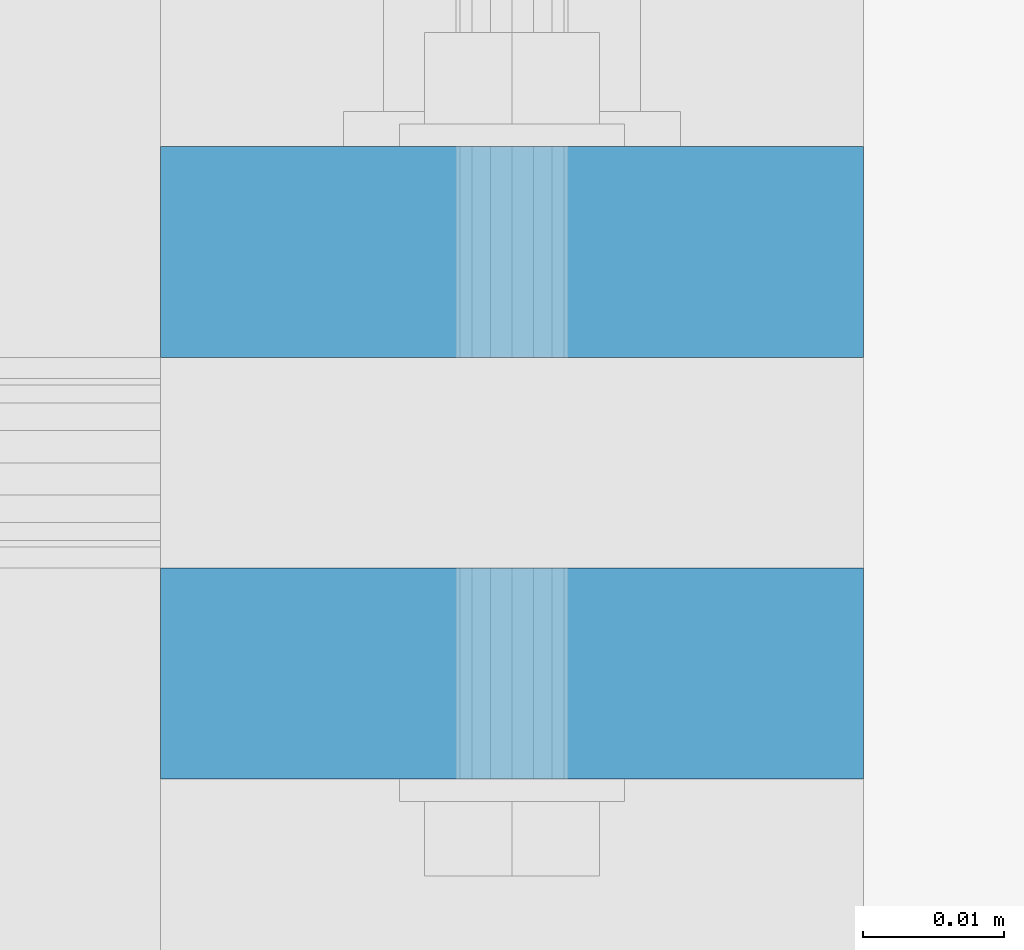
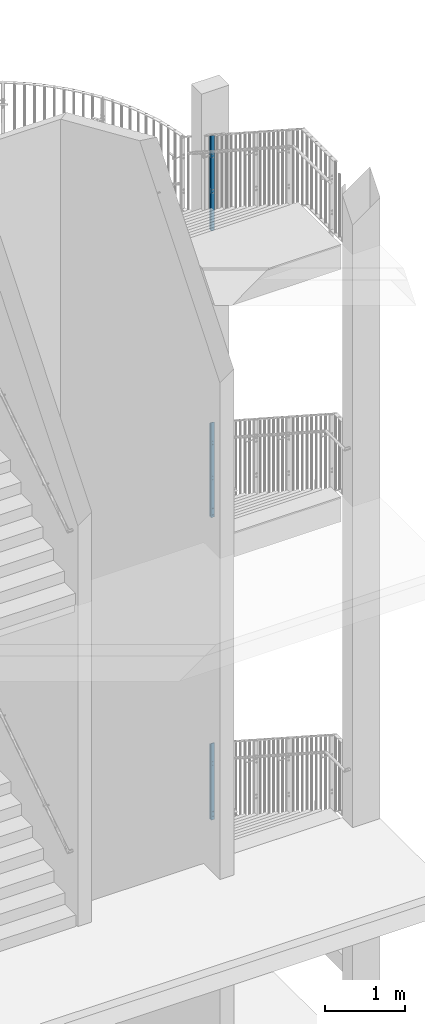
# One storey, part 80 of 296: 6 columns, 32 openings.
"""IFC2X3 building model written with IfcOpenShell, lengths in millimetres."""

import ifcopenshell
import ifcopenshell.guid

model = None  # the IFC model being written
_history = None  # IfcOwnerHistory: only IFC2X3 demands one
_inside = {}  # id of a spatial element -> (the spatial element, [elements in it])
_under = {}  # id of a project, library or spatial element -> (it, [spatial elements below it])
_declared = {}  # id of a project -> (the project, [libraries it declares])
_typed = {}  # id of a type object -> (the type object, [elements of that type])
_made_of = {}  # id of a material, layer set ... -> (it, [elements and type objects made of it])


def new_model(schema):
    """Start an empty IFC model of exactly this schema.

    Asked for "IFC4X3", IfcOpenShell would pick the latest addendum, in which some entities
    have other attributes; the version numbers below select the first issue.
    IFC2X3 requires an IfcOwnerHistory on every rooted entity: one is made here for all.
    """
    global model, _history
    if schema == "IFC4X3":
        model = ifcopenshell.file(schema_version=(4, 3, 0, 0))
    else:
        model = ifcopenshell.file(schema=schema)
    _inside.clear()
    _under.clear()
    _declared.clear()
    _typed.clear()
    _made_of.clear()
    _history = None
    if model.schema == "IFC2X3":
        org = make("IfcOrganization", Name="unknown")
        user = make(
            "IfcPersonAndOrganization",
            ThePerson=make("IfcPerson", FamilyName="unknown"),
            TheOrganization=org,
        )
        app = make(
            "IfcApplication",
            ApplicationDeveloper=org,
            Version="unknown",
            ApplicationFullName="unknown",
            ApplicationIdentifier="unknown",
        )
        _history = make(
            "IfcOwnerHistory",
            OwningUser=user,
            OwningApplication=app,
            ChangeAction="ADDED",
            CreationDate=0,
        )
    return model


def make(cls, **values):
    """One entity of the class cls with the attributes given. An attribute that is None is left unset."""
    return model.create_entity(
        cls, **{name: value for name, value in values.items() if value is not None}
    )


def entity(cls, *values):
    """Any entity or typed value of the class cls, its attributes in the order of the schema. None: left unset."""
    e = model.create_entity(cls)
    for i, value in enumerate(values):
        if value is not None:
            e[i] = value
    return e


def rooted(cls, **values):
    """An entity with a GlobalId (a new one), such as an element, a storey or a relation."""
    return make(cls, GlobalId=ifcopenshell.guid.new(), OwnerHistory=_history, **values)


def si_unit(unit_type, name, prefix=None):
    """IfcSIUnit, for example si_unit("LENGTHUNIT", "METRE", prefix="MILLI")."""
    return make("IfcSIUnit", UnitType=unit_type, Prefix=prefix, Name=name)


def converted_unit(unit_type, name, factor, base, dimensions=None, offset=None):
    """IfcConversionBasedUnit, such as the inch: factor (a typed value) times the base unit."""
    return make(
        "IfcConversionBasedUnit"
        if offset is None
        else "IfcConversionBasedUnitWithOffset",
        ConversionOffset=offset,
        Dimensions=None
        if dimensions is None
        else entity("IfcDimensionalExponents", *dimensions),
        UnitType=unit_type,
        Name=name,
        ConversionFactor=make(
            "IfcMeasureWithUnit", ValueComponent=factor, UnitComponent=base
        ),
    )


def assignment(units):
    """IfcUnitAssignment: the units of a project."""
    return None if units is None else make("IfcUnitAssignment", Units=units)


def point(xyz):
    """IfcCartesianPoint."""
    return None if xyz is None else make("IfcCartesianPoint", Coordinates=xyz)


def direction(xyz):
    """IfcDirection."""
    return None if xyz is None else make("IfcDirection", DirectionRatios=xyz)


def frame(location, z_axis=None, x_axis=None):
    """IfcAxis2Placement3D, a coordinate frame: its origin and axes. An axis left out is left unset."""
    return make(
        "IfcAxis2Placement3D",
        Location=point(location),
        Axis=direction(z_axis),
        RefDirection=direction(x_axis),
    )


def frame_2d(location, x_axis=None):
    """IfcAxis2Placement2D, a coordinate frame in the plane: its origin and x axis."""
    return make(
        "IfcAxis2Placement2D", Location=point(location), RefDirection=direction(x_axis)
    )


def origin():
    """The frame at (0, 0, 0) with its axes left unset."""
    return frame((0.0, 0.0, 0.0))


def origin_with_axes():
    """The frame at (0, 0, 0) with the z axis (0, 0, 1) and the x axis (1, 0, 0) written out."""
    return frame((0.0, 0.0, 0.0), z_axis=(0.0, 0.0, 1.0), x_axis=(1.0, 0.0, 0.0))


def origin_2d():
    """The frame at (0, 0) in the plane with its x axis left unset."""
    return frame_2d((0.0, 0.0))


def place(relative_to, where):
    """IfcLocalPlacement: puts the frame where relative to a parent placement (None: the world)."""
    return make(
        "IfcLocalPlacement", PlacementRelTo=relative_to, RelativePlacement=where
    )


def context(
    kind, dimensions, precision=None, world=None, true_north=None, identifier=None
):
    """IfcGeometricRepresentationContext, for example the 3D "Model" context."""
    return make(
        "IfcGeometricRepresentationContext",
        ContextIdentifier=identifier,
        ContextType=kind,
        CoordinateSpaceDimension=dimensions,
        Precision=precision,
        WorldCoordinateSystem=world,
        TrueNorth=true_north,
    )


def project(units=None, contexts=None):
    """IfcProject with its units and contexts."""
    return rooted(
        "IfcProject",
        Name="project",
        RepresentationContexts=contexts,
        UnitsInContext=assignment(units),
    )


def spatial(cls, under=None, at=None, **own):
    """A site, building, storey or space (cls), placed at a placement, below another one or the project."""
    s = rooted(cls, ObjectPlacement=at, **own)
    if under is not None:
        _under.setdefault(under.id(), (under, []))[1].append(s)
    return s


def profile(cls, at=None, kind="AREA", **sizes):
    """A parametric profile (cls). Its sizes go by their IFC names, for example OverallWidth=200.0."""
    return make(cls, ProfileType=kind, Position=at, **sizes)


def rectangle(**sizes):
    """IfcRectangleProfileDef."""
    return profile("IfcRectangleProfileDef", **sizes)


def circle(**sizes):
    """IfcCircleProfileDef."""
    return profile("IfcCircleProfileDef", **sizes)


def extrude(swept, where, along, depth):
    """IfcExtrudedAreaSolid: the profile swept, set in the frame where, extruded along a direction by depth."""
    return make(
        "IfcExtrudedAreaSolid",
        SweptArea=swept,
        Position=where,
        ExtrudedDirection=direction(along),
        Depth=depth,
    )


def clip(a, b, op="DIFFERENCE"):
    """IfcBooleanClippingResult: the solid a cut by the half space b."""
    return make(
        "IfcBooleanClippingResult", Operator=op, FirstOperand=a, SecondOperand=b
    )


def halfspace(plane, agree):
    """IfcHalfSpaceSolid: all space on one side of the plane z = 0 of the frame plane."""
    return make(
        "IfcHalfSpaceSolid",
        BaseSurface=make("IfcPlane", Position=plane),
        AgreementFlag=agree,
    )


def shape(context_of_items, identifier, shape_type, items):
    """IfcShapeRepresentation: the items that make up one representation, for example the "Body"."""
    return make(
        "IfcShapeRepresentation",
        ContextOfItems=context_of_items,
        RepresentationIdentifier=identifier,
        RepresentationType=shape_type,
        Items=items,
    )


def material(Name=None, Category=None):
    """IfcMaterial."""
    return make("IfcMaterial", Name=Name, Category=Category)


def made_of(thing, what):
    """Note that an element or type object is made of a material, layer set ...; save() writes the relation."""
    if what is not None:
        _made_of.setdefault(what.id(), (what, []))[1].append(thing)
    return thing


def element(
    cls,
    number,
    at=None,
    inside=None,
    cuts=None,
    type_object=None,
    material=None,
    context=None,
    identifier="Body",
    shape_type=None,
    held_by="IfcProductDefinitionShape",
    body=None,
    shapes=None,
    **own,
):
    """One element of the class cls, such as IfcWall. Its Tag is "e" and its number.

    at: its placement. inside: the storey or other place that contains it. cuts: it is an
    opening in that element (IfcRelVoidsElement). A single representation is given by context,
    identifier, shape_type and body (its items); several are given by shapes. held_by: the class
    of the entity that holds the representations. save() writes the other relations.
    """
    e = rooted(cls, Tag="e%d" % number, ObjectPlacement=at, **own)
    if body is not None:
        shapes = [shape(context, identifier, shape_type, body)]
    if shapes is not None:
        e.Representation = make(held_by, Representations=shapes)
    if inside is not None:
        _inside.setdefault(inside.id(), (inside, []))[1].append(e)
    if cuts is not None:
        rooted(
            "IfcRelVoidsElement", RelatingBuildingElement=cuts, RelatedOpeningElement=e
        )
    if type_object is not None:
        _typed.setdefault(type_object.id(), (type_object, []))[1].append(e)
    return made_of(e, material)


def aggregate(whole, parts):
    """IfcRelAggregates: a whole, such as a stair, and the parts it consists of."""
    return rooted("IfcRelAggregates", RelatingObject=whole, RelatedObjects=parts)


def save(model, path):
    """Write the relations noted so far, then the file.

    IfcRelAggregates (storeys below a building ...), IfcRelContainedInSpatialStructure (elements
    in a storey), IfcRelDefinesByType, IfcRelAssociatesMaterial and IfcRelDeclares: one each for
    every whole, place, type object, material and project.
    """
    for whole, parts in _under.values():
        aggregate(whole, parts)
    for where, things in _inside.values():
        rooted(
            "IfcRelContainedInSpatialStructure",
            RelatedElements=things,
            RelatingStructure=where,
        )
    for kind, things in _typed.values():
        rooted("IfcRelDefinesByType", RelatedObjects=things, RelatingType=kind)
    for what, things in _made_of.values():
        rooted("IfcRelAssociatesMaterial", RelatedObjects=things, RelatingMaterial=what)
    for by, libraries in _declared.values():
        rooted("IfcRelDeclares", RelatingContext=by, RelatedDefinitions=libraries)
    model.write(path)


model = new_model("IFC2X3")

# Units and contexts
model_context = context("Model", 3, precision=1e-09, world=origin_with_axes())
ifc_project = project(units=[si_unit("LENGTHUNIT", "METRE", prefix="MILLI"), si_unit("AREAUNIT", "SQUARE_METRE"), si_unit("VOLUMEUNIT", "CUBIC_METRE"), converted_unit("PLANEANGLEUNIT", "DEGREE", entity("IfcPlaneAngleMeasure", 0.01745329), si_unit("PLANEANGLEUNIT", "RADIAN"), dimensions=[0, 0, 0, 0, 0, 0, 0])], contexts=[model_context])

# Site, building, storey
site_placement = place(None, origin_with_axes())
site = spatial("IfcSite", under=ifc_project, at=site_placement, Name="TZD-S?d | Treppenhausgel?nder", CompositionType="ELEMENT")
building_placement = place(site_placement, origin_with_axes())
building = spatial("IfcBuilding", under=site, at=building_placement, Name="Struktur 1", CompositionType="ELEMENT")
storey_placement = place(building_placement, origin_with_axes())
storey = spatial("IfcBuildingStorey", under=building, at=storey_placement, Name="Default Storey", CompositionType="ELEMENT", Elevation=0.0)

# Column, openings
ifc_material = material(Name="S235JR")
column_1_placement = place(None, frame((5894.999, -425.0, 11829.999), z_axis=(0.0, 0.0, 1.0), x_axis=(0.0, -1.0, 0.0)))
column_1 = element("IfcColumn", 1, at=column_1_placement, inside=storey, material=ifc_material, Name="-", ObjectType="-", context=model_context, shape_type="Clipping", body=[
    clip(extrude(rectangle(XDim=15.0, YDim=50.0, at=origin_2d()), origin(), (0.0, 0.0, 1.0), 1459.773724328), halfspace(frame((-6348.187002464, -5894.999, -2681.407055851), z_axis=(0.543478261, 0.0, -0.839423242), x_axis=(0.0, 1.0, 0.0)), True)),
])
opening_1_placement = place(column_1_placement, frame((-8.0, 7.001, 135.0), z_axis=(-1.0, 0.0, 0.0), x_axis=(0.0, -1.0, 0.0)))
element("IfcOpeningElement", 2, at=opening_1_placement, cuts=column_1, ObjectType="Opening", context=model_context, shape_type="SweptSolid", body=[
    extrude(circle(Radius=7.001, at=frame_2d((7.001, 0.0), x_axis=(1.0, 0.0))), origin(), (0.0, 0.0, -1.0), 16.0),
])
opening_2_placement = place(column_1_placement, frame((-8.0, 7.001, 35.0), z_axis=(-1.0, 0.0, 0.0), x_axis=(0.0, -1.0, 0.0)))
element("IfcOpeningElement", 3, at=opening_2_placement, cuts=column_1, ObjectType="Opening", context=model_context, shape_type="SweptSolid", body=[
    extrude(circle(Radius=7.001, at=frame_2d((7.001, 0.0), x_axis=(1.0, 0.0))), origin(), (0.0, 0.0, -1.0), 16.0),
])
opening_3_placement = place(column_1_placement, frame((-8.0, 5.001, 624.999999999), z_axis=(-1.0, 0.0, 0.0), x_axis=(0.0, -1.0, 0.0)))
element("IfcOpeningElement", 4, at=opening_3_placement, cuts=column_1, ObjectType="Opening", context=model_context, shape_type="SweptSolid", body=[
    extrude(circle(Radius=5.001, at=frame_2d((5.001, 0.0), x_axis=(1.0, 0.0))), origin(), (0.0, 0.0, -1.0), 16.0),
])
opening_4_placement = place(column_1_placement, frame((-8.0, 5.001, 574.999999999), z_axis=(-1.0, 0.0, 0.0), x_axis=(0.0, -1.0, 0.0)))
element("IfcOpeningElement", 5, at=opening_4_placement, cuts=column_1, ObjectType="Opening", context=model_context, shape_type="SweptSolid", body=[
    extrude(circle(Radius=5.001, at=frame_2d((5.001, 0.0), x_axis=(1.0, 0.0))), origin(), (0.0, 0.0, -1.0), 16.0),
])
opening_5_placement = place(column_1_placement, frame((-8.0, 5.001, 1165.891059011), z_axis=(-1.0, 0.0, 0.0), x_axis=(0.0, -1.0, 0.0)))
element("IfcOpeningElement", 6, at=opening_5_placement, cuts=column_1, ObjectType="Opening", context=model_context, shape_type="SweptSolid", body=[
    extrude(circle(Radius=5.001, at=frame_2d((5.001, 0.0), x_axis=(1.0, 0.0))), origin(), (0.0, 0.0, -1.0), 16.0),
])
opening_6_placement = place(column_1_placement, frame((-8.0, 5.001, 1115.891059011), z_axis=(-1.0, 0.0, 0.0), x_axis=(0.0, -1.0, 0.0)))
element("IfcOpeningElement", 7, at=opening_6_placement, cuts=column_1, ObjectType="Opening", context=model_context, shape_type="SweptSolid", body=[
    extrude(circle(Radius=5.001, at=frame_2d((5.001, 0.0), x_axis=(1.0, 0.0))), origin(), (0.0, 0.0, -1.0), 16.0),
])

column_2_placement = place(None, frame((5894.999, -455.0, 11829.999), z_axis=(0.0, 0.0, -1.0), x_axis=(0.0, 1.0, 0.0)))
column_2 = element("IfcColumn", 8, at=column_2_placement, inside=storey, material=ifc_material, Name="-", ObjectType="-", context=model_context, shape_type="Clipping", body=[
    clip(extrude(rectangle(XDim=15.0, YDim=50.0, at=origin_2d()), origin(), (0.0, 0.0, -1.0), 1479.19699855), halfspace(frame((6378.187002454, -5894.999, 2681.407055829), z_axis=(-0.543478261, 0.0, 0.839423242), x_axis=(0.0, 1.0, 0.0)), True)),
])
opening_7_placement = place(column_2_placement, frame((8.0, 5.001, -624.999999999), z_axis=(1.0, 0.0, 0.0), x_axis=(0.0, 1.0, 0.0)))
element("IfcOpeningElement", 9, at=opening_7_placement, cuts=column_2, ObjectType="Opening", context=model_context, shape_type="SweptSolid", body=[
    extrude(circle(Radius=5.001, at=frame_2d((-5.001, 0.0), x_axis=(1.0, 0.0))), origin(), (0.0, 0.0, -1.0), 16.0),
])
opening_8_placement = place(column_2_placement, frame((8.0, 5.001, -574.999999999), z_axis=(1.0, 0.0, 0.0), x_axis=(0.0, 1.0, 0.0)))
element("IfcOpeningElement", 10, at=opening_8_placement, cuts=column_2, ObjectType="Opening", context=model_context, shape_type="SweptSolid", body=[
    extrude(circle(Radius=5.001, at=frame_2d((-5.001, 0.0), x_axis=(1.0, 0.0))), origin(), (0.0, 0.0, -1.0), 16.0),
])
opening_9_placement = place(column_2_placement, frame((8.0, 7.001, -135.0), z_axis=(1.0, 0.0, 0.0), x_axis=(0.0, 1.0, 0.0)))
element("IfcOpeningElement", 11, at=opening_9_placement, cuts=column_2, ObjectType="Opening", context=model_context, shape_type="SweptSolid", body=[
    extrude(circle(Radius=7.001, at=frame_2d((-7.001, 0.0), x_axis=(1.0, 0.0))), origin(), (0.0, 0.0, -1.0), 16.0),
])
opening_10_placement = place(column_2_placement, frame((8.0, 7.001, -35.0), z_axis=(1.0, 0.0, 0.0), x_axis=(0.0, 1.0, 0.0)))
element("IfcOpeningElement", 12, at=opening_10_placement, cuts=column_2, ObjectType="Opening", context=model_context, shape_type="SweptSolid", body=[
    extrude(circle(Radius=7.001, at=frame_2d((-7.001, 0.0), x_axis=(1.0, 0.0))), origin(), (0.0, 0.0, -1.0), 16.0),
])
opening_11_placement = place(column_2_placement, frame((8.0, 5.001, -1165.891059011), z_axis=(1.0, 0.0, 0.0), x_axis=(0.0, 1.0, 0.0)))
element("IfcOpeningElement", 13, at=opening_11_placement, cuts=column_2, ObjectType="Opening", context=model_context, shape_type="SweptSolid", body=[
    extrude(circle(Radius=5.001, at=frame_2d((-5.001, 0.0), x_axis=(1.0, 0.0))), origin(), (0.0, 0.0, -1.0), 16.0),
])
opening_12_placement = place(column_2_placement, frame((8.0, 5.001, -1115.891059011), z_axis=(1.0, 0.0, 0.0), x_axis=(0.0, 1.0, 0.0)))
element("IfcOpeningElement", 14, at=opening_12_placement, cuts=column_2, ObjectType="Opening", context=model_context, shape_type="SweptSolid", body=[
    extrude(circle(Radius=5.001, at=frame_2d((-5.001, 0.0), x_axis=(1.0, 0.0))), origin(), (0.0, 0.0, -1.0), 16.0),
])

column_3_placement = place(None, frame((5894.999, -425.0, 7454.999), z_axis=(0.0, 0.0, 1.0), x_axis=(0.0, -1.0, 0.0)))
column_3 = element("IfcColumn", 15, at=column_3_placement, inside=storey, material=ifc_material, Name="-", ObjectType="-", context=model_context, shape_type="Clipping", body=[
    clip(extrude(rectangle(XDim=15.0, YDim=50.0, at=origin_2d()), origin(), (0.0, 0.0, 1.0), 1456.429305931), halfspace(frame((-4351.25068323, -5894.999, -1392.80868189), z_axis=(0.543608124, 0.0, -0.839339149), x_axis=(0.0, 1.0, 0.0)), True)),
])
opening_13_placement = place(column_3_placement, frame((-8.0, 5.001, 1162.523152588), z_axis=(-1.0, 0.0, 0.0), x_axis=(0.0, -1.0, 0.0)))
element("IfcOpeningElement", 16, at=opening_13_placement, cuts=column_3, ObjectType="Opening", context=model_context, shape_type="SweptSolid", body=[
    extrude(circle(Radius=5.001, at=frame_2d((5.001, 0.0), x_axis=(1.0, 0.0))), origin(), (0.0, 0.0, -1.0), 16.0),
])
opening_14_placement = place(column_3_placement, frame((-8.0, 5.001, 1112.523152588), z_axis=(-1.0, 0.0, 0.0), x_axis=(0.0, -1.0, 0.0)))
element("IfcOpeningElement", 17, at=opening_14_placement, cuts=column_3, ObjectType="Opening", context=model_context, shape_type="SweptSolid", body=[
    extrude(circle(Radius=5.001, at=frame_2d((5.001, 0.0), x_axis=(1.0, 0.0))), origin(), (0.0, 0.0, -1.0), 16.0),
])
opening_15_placement = place(column_3_placement, frame((-8.0, 7.001, 135.0), z_axis=(-1.0, 0.0, 0.0), x_axis=(0.0, -1.0, 0.0)))
element("IfcOpeningElement", 18, at=opening_15_placement, cuts=column_3, ObjectType="Opening", context=model_context, shape_type="SweptSolid", body=[
    extrude(circle(Radius=7.001, at=frame_2d((7.001, 0.0), x_axis=(1.0, 0.0))), origin(), (0.0, 0.0, -1.0), 16.0),
])
opening_16_placement = place(column_3_placement, frame((-8.0, 7.001, 35.0), z_axis=(-1.0, 0.0, 0.0), x_axis=(0.0, -1.0, 0.0)))
element("IfcOpeningElement", 19, at=opening_16_placement, cuts=column_3, ObjectType="Opening", context=model_context, shape_type="SweptSolid", body=[
    extrude(circle(Radius=7.001, at=frame_2d((7.001, 0.0), x_axis=(1.0, 0.0))), origin(), (0.0, 0.0, -1.0), 16.0),
])
opening_17_placement = place(column_3_placement, frame((-8.0, 5.001, 624.999999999), z_axis=(-1.0, 0.0, 0.0), x_axis=(0.0, -1.0, 0.0)))
element("IfcOpeningElement", 20, at=opening_17_placement, cuts=column_3, ObjectType="Opening", context=model_context, shape_type="SweptSolid", body=[
    extrude(circle(Radius=5.001, at=frame_2d((5.001, 0.0), x_axis=(1.0, 0.0))), origin(), (0.0, 0.0, -1.0), 16.0),
])
opening_18_placement = place(column_3_placement, frame((-8.0, 5.001, 574.999999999), z_axis=(-1.0, 0.0, 0.0), x_axis=(0.0, -1.0, 0.0)))
element("IfcOpeningElement", 21, at=opening_18_placement, cuts=column_3, ObjectType="Opening", context=model_context, shape_type="SweptSolid", body=[
    extrude(circle(Radius=5.001, at=frame_2d((5.001, 0.0), x_axis=(1.0, 0.0))), origin(), (0.0, 0.0, -1.0), 16.0),
])

column_4_placement = place(None, frame((5894.999, -455.0, 7454.999), z_axis=(0.0, 0.0, -1.0), x_axis=(0.0, 1.0, 0.0)))
column_4 = element("IfcColumn", 22, at=column_4_placement, inside=storey, material=ifc_material, Name="-", ObjectType="-", context=model_context, shape_type="Clipping", body=[
    clip(extrude(rectangle(XDim=15.0, YDim=50.0, at=origin_2d()), origin(), (0.0, 0.0, -1.0), 1475.859167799), halfspace(frame((4381.250683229, -5894.999, 1392.80868189), z_axis=(-0.543608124, 0.0, 0.839339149), x_axis=(0.0, 1.0, 0.0)), True)),
])
opening_19_placement = place(column_4_placement, frame((8.0, 7.001, -135.0), z_axis=(1.0, 0.0, 0.0), x_axis=(0.0, 1.0, 0.0)))
element("IfcOpeningElement", 23, at=opening_19_placement, cuts=column_4, ObjectType="Opening", context=model_context, shape_type="SweptSolid", body=[
    extrude(circle(Radius=7.001, at=frame_2d((-7.001, 0.0), x_axis=(1.0, 0.0))), origin(), (0.0, 0.0, -1.0), 16.0),
])
opening_20_placement = place(column_4_placement, frame((8.0, 7.001, -35.0), z_axis=(1.0, 0.0, 0.0), x_axis=(0.0, 1.0, 0.0)))
element("IfcOpeningElement", 24, at=opening_20_placement, cuts=column_4, ObjectType="Opening", context=model_context, shape_type="SweptSolid", body=[
    extrude(circle(Radius=7.001, at=frame_2d((-7.001, 0.0), x_axis=(1.0, 0.0))), origin(), (0.0, 0.0, -1.0), 16.0),
])
opening_21_placement = place(column_4_placement, frame((8.0, 5.001, -624.999999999), z_axis=(1.0, 0.0, 0.0), x_axis=(0.0, 1.0, 0.0)))
element("IfcOpeningElement", 25, at=opening_21_placement, cuts=column_4, ObjectType="Opening", context=model_context, shape_type="SweptSolid", body=[
    extrude(circle(Radius=5.001, at=frame_2d((-5.001, 0.0), x_axis=(1.0, 0.0))), origin(), (0.0, 0.0, -1.0), 16.0),
])
opening_22_placement = place(column_4_placement, frame((8.0, 5.001, -574.999999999), z_axis=(1.0, 0.0, 0.0), x_axis=(0.0, 1.0, 0.0)))
element("IfcOpeningElement", 26, at=opening_22_placement, cuts=column_4, ObjectType="Opening", context=model_context, shape_type="SweptSolid", body=[
    extrude(circle(Radius=5.001, at=frame_2d((-5.001, 0.0), x_axis=(1.0, 0.0))), origin(), (0.0, 0.0, -1.0), 16.0),
])
opening_23_placement = place(column_4_placement, frame((8.0, 5.001, -1162.523152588), z_axis=(1.0, 0.0, 0.0), x_axis=(0.0, 1.0, 0.0)))
element("IfcOpeningElement", 27, at=opening_23_placement, cuts=column_4, ObjectType="Opening", context=model_context, shape_type="SweptSolid", body=[
    extrude(circle(Radius=5.001, at=frame_2d((-5.001, 0.0), x_axis=(1.0, 0.0))), origin(), (0.0, 0.0, -1.0), 16.0),
])
opening_24_placement = place(column_4_placement, frame((8.0, 5.001, -1112.523152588), z_axis=(1.0, 0.0, 0.0), x_axis=(0.0, 1.0, 0.0)))
element("IfcOpeningElement", 28, at=opening_24_placement, cuts=column_4, ObjectType="Opening", context=model_context, shape_type="SweptSolid", body=[
    extrude(circle(Radius=5.001, at=frame_2d((-5.001, 0.0), x_axis=(1.0, 0.0))), origin(), (0.0, 0.0, -1.0), 16.0),
])

column_5_placement = place(None, frame((5894.999, -425.0, 2839.999), z_axis=(0.0, 0.0, 1.0), x_axis=(0.0, -1.0, 0.0)))
column_5 = element("IfcColumn", 29, at=column_5_placement, inside=storey, material=ifc_material, Name="-", ObjectType="-", context=model_context, shape_type="Clipping", body=[
    clip(extrude(rectangle(XDim=15.0, YDim=50.0, at=origin_2d()), origin(), (0.0, 0.0, 1.0), 1178.050876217), halfspace(frame((-2117.585742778, -5894.999, -222.190152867), z_axis=(0.542959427, 0.0, -0.83975893), x_axis=(0.0, 1.0, 0.0)), True)),
])
opening_25_placement = place(column_5_placement, frame((-8.0, 5.001, 884.177393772), z_axis=(-1.0, 0.0, 0.0), x_axis=(0.0, -1.0, 0.0)))
element("IfcOpeningElement", 30, at=opening_25_placement, cuts=column_5, ObjectType="Opening", context=model_context, shape_type="SweptSolid", body=[
    extrude(circle(Radius=5.001, at=frame_2d((5.001, 0.0), x_axis=(1.0, 0.0))), origin(), (0.0, 0.0, -1.0), 16.0),
])
opening_26_placement = place(column_5_placement, frame((-8.0, 5.001, 834.177393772), z_axis=(-1.0, 0.0, 0.0), x_axis=(0.0, -1.0, 0.0)))
element("IfcOpeningElement", 31, at=opening_26_placement, cuts=column_5, ObjectType="Opening", context=model_context, shape_type="SweptSolid", body=[
    extrude(circle(Radius=5.001, at=frame_2d((5.001, 0.0), x_axis=(1.0, 0.0))), origin(), (0.0, 0.0, -1.0), 16.0),
])
opening_27_placement = place(column_5_placement, frame((8.0, 0.0, 90.0), z_axis=(-1.0, 0.0, 0.0), x_axis=(0.0, -1.0, 0.0)))
element("IfcOpeningElement", 32, at=opening_27_placement, cuts=column_5, ObjectType="Opening", context=model_context, shape_type="SweptSolid", body=[
    extrude(circle(Radius=7.001, at=frame_2d((0.0, 35.0), x_axis=(1.0, 0.0))), origin(), (0.0, 0.0, 1.0), 16.0),
])
opening_28_placement = place(column_5_placement, frame((8.0, 0.0, 90.0), z_axis=(-1.0, 0.0, 0.0), x_axis=(0.0, -1.0, 0.0)))
element("IfcOpeningElement", 33, at=opening_28_placement, cuts=column_5, ObjectType="Opening", context=model_context, shape_type="SweptSolid", body=[
    extrude(circle(Radius=7.001, at=frame_2d((0.0, -35.0), x_axis=(1.0, 0.0))), origin(), (0.0, 0.0, 1.0), 16.0),
])

column_6_placement = place(None, frame((5894.999, -455.0, 2839.999), z_axis=(0.0, 0.0, -1.0), x_axis=(0.0, 1.0, 0.0)))
column_6 = element("IfcColumn", 34, at=column_6_placement, inside=storey, material=ifc_material, Name="-", ObjectType="-", context=model_context, shape_type="Clipping", body=[
    clip(extrude(rectangle(XDim=15.0, YDim=50.0, at=origin_2d()), origin(), (0.0, 0.0, -1.0), 1197.447851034), halfspace(frame((2147.585742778, -5894.999, 222.190152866), z_axis=(-0.542959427, 0.0, 0.83975893), x_axis=(0.0, 1.0, 0.0)), True)),
])
opening_29_placement = place(column_6_placement, frame((8.0, 5.001, -884.177393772), z_axis=(1.0, 0.0, 0.0), x_axis=(0.0, 1.0, 0.0)))
element("IfcOpeningElement", 35, at=opening_29_placement, cuts=column_6, ObjectType="Opening", context=model_context, shape_type="SweptSolid", body=[
    extrude(circle(Radius=5.001, at=frame_2d((-5.001, 0.0), x_axis=(1.0, 0.0))), origin(), (0.0, 0.0, -1.0), 16.0),
])
opening_30_placement = place(column_6_placement, frame((8.0, 5.001, -834.177393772), z_axis=(1.0, 0.0, 0.0), x_axis=(0.0, 1.0, 0.0)))
element("IfcOpeningElement", 36, at=opening_30_placement, cuts=column_6, ObjectType="Opening", context=model_context, shape_type="SweptSolid", body=[
    extrude(circle(Radius=5.001, at=frame_2d((-5.001, 0.0), x_axis=(1.0, 0.0))), origin(), (0.0, 0.0, -1.0), 16.0),
])
opening_31_placement = place(column_6_placement, frame((-8.0, 0.0, -90.0), z_axis=(1.0, 0.0, 0.0), x_axis=(0.0, -1.0, 0.0)))
element("IfcOpeningElement", 37, at=opening_31_placement, cuts=column_6, ObjectType="Opening", context=model_context, shape_type="SweptSolid", body=[
    extrude(circle(Radius=7.001, at=frame_2d((0.0, 35.0), x_axis=(1.0, 0.0))), origin(), (0.0, 0.0, 1.0), 16.0),
])
opening_32_placement = place(column_6_placement, frame((-8.0, 0.0, -90.0), z_axis=(1.0, 0.0, 0.0), x_axis=(0.0, -1.0, 0.0)))
element("IfcOpeningElement", 38, at=opening_32_placement, cuts=column_6, ObjectType="Opening", context=model_context, shape_type="SweptSolid", body=[
    extrude(circle(Radius=7.001, at=frame_2d((0.0, -35.0), x_axis=(1.0, 0.0))), origin(), (0.0, 0.0, 1.0), 16.0),
])

save(model, "model.ifc")
